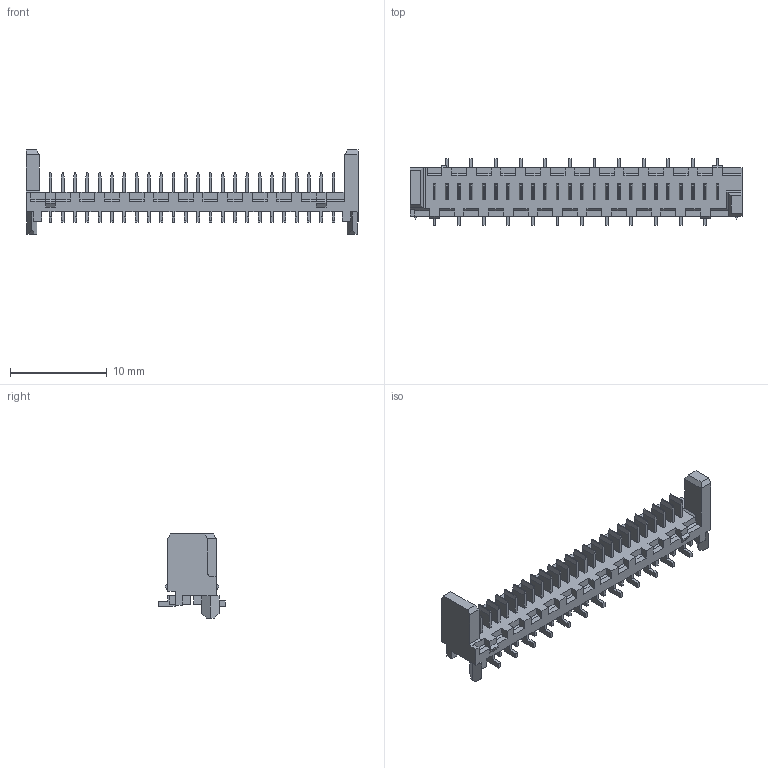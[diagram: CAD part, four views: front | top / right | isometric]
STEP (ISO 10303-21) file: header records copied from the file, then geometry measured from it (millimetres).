
FILE_DESCRIPTION((''),'2;1');
FILE_NAME('908143224','2021-05-27T',('gga'),(''),'PRO/ENGINEER BY PARAMETRIC TECHNOLOGY CORPORATION, 2016010','PRO/ENGINEER BY PARAMETRIC TECHNOLOGY CORPORATION, 2016010','');
FILE_SCHEMA(('CONFIG_CONTROL_DESIGN'));
Length unit declared in the file: millimetre
Products named in the file (1): 908143224
Bounding box: 34.26 x 6.9 x 8.7 mm (x, y, z)
Volume: 401.8 mm3; surface area: 1089.1 mm2
Topology: 1 solids, 1 shells, 717 faces, 2075 edges, 1396 vertices
Faces by surface type: plane 717
Entity records: 22914 total; most frequent: CARTESIAN_POINT 4090, ORIENTED_EDGE 3950, DIRECTION 3517, VECTOR 2071, LINE 2071, EDGE_CURVE 1975, VERTEX_POINT 1296, EDGE_LOOP 753
